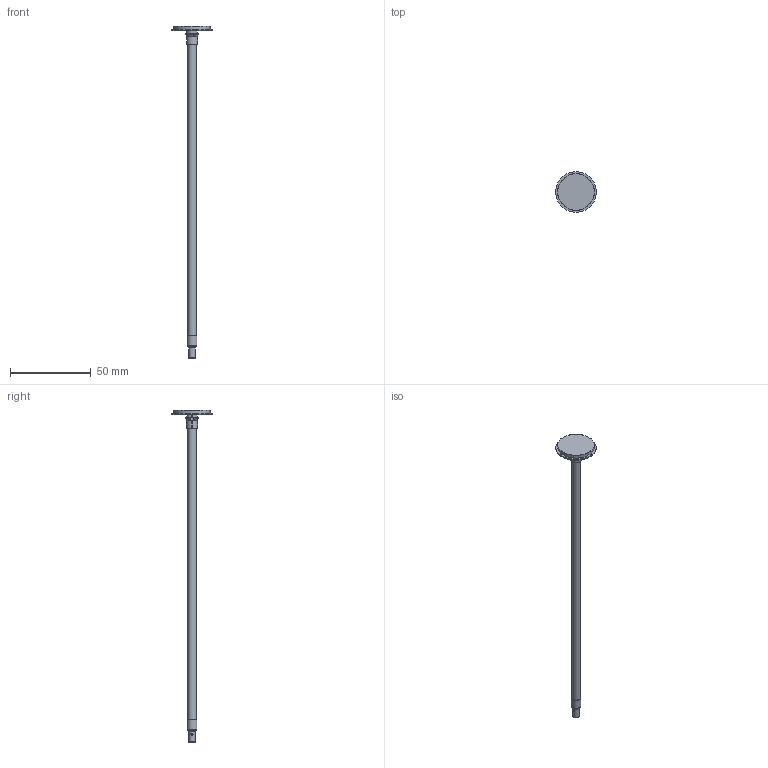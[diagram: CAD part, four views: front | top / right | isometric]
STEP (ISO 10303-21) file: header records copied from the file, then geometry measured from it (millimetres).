
FILE_DESCRIPTION(/* description */ (''),/* implementation_level */ '2;1');
FILE_NAME(/* name */ 'LA-2237-0791#-B.stp',/* time_stamp */ '2012-09-07T08:50:28+01:00',/* author */ (''),/* organization */ (''),/* preprocessor_version */ 'ST-DEVELOPER v11',/* originating_system */ 'SIEMENS PLM Software NX 7.5',/* authorisation */ '');
FILE_SCHEMA (('AUTOMOTIVE_DESIGN { 1 0 10303 214 1 1 1 1 }'));
Length unit declared in the file: millimetre
Products named in the file (1): rt13371Ayuuh
Bounding box: 25 x 25 x 205.15 mm (x, y, z)
Volume: 5905.7 mm3; surface area: 4766.1 mm2
Topology: 1 solids, 1 shells, 48 faces, 175 edges, 144 vertices
Faces by surface type: plane 19, cylinder 14, cone 11, torus 4
Full cylindrical faces by diameter (mm): 1.31 x2, 2.6 x1, 4 x1, 5.475 x1, 6.168 x1, 6.6 x1, 22.7 x1, 25 x1
Entity records: 2296 total; most frequent: CARTESIAN_POINT 724, ORIENTED_EDGE 294, DIRECTION 238, EDGE_CURVE 147, VERTEX_POINT 138, EDGE_LOOP 88, AXIS2_PLACEMENT_3D 88, FACE_BOUND 71
